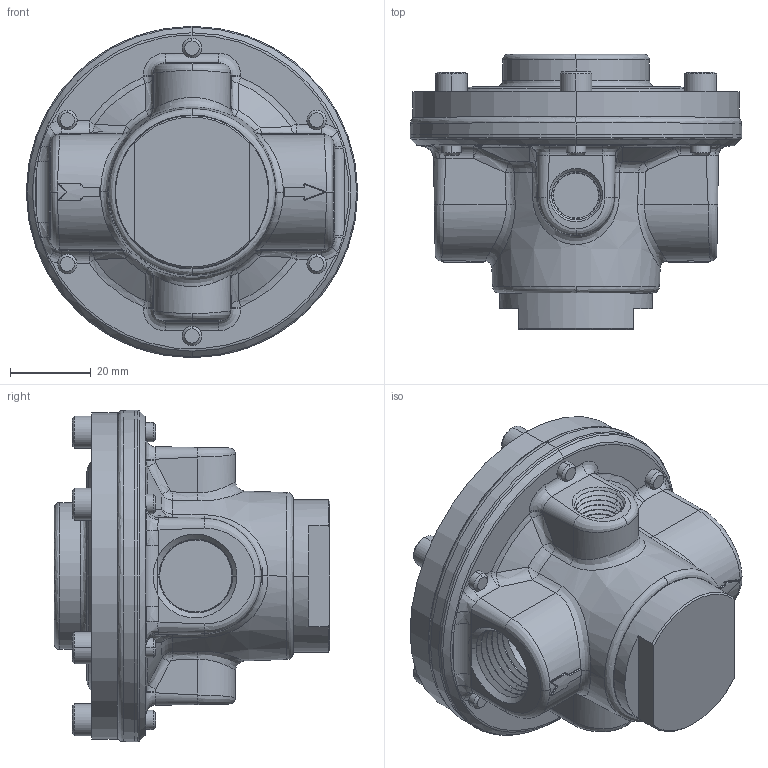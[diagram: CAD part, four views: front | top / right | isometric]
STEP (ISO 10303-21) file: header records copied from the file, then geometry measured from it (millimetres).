
FILE_DESCRIPTION (( 'STEP AP203' ), '1' );
FILE_NAME ('4GDR-4BSPT-PO.STEP', '2013-03-14T15:20:58', ( '' ), ( '' ), 'SwSTEP 2.0', 'SolidWorks 2011', '' );
FILE_SCHEMA (( 'CONFIG_CONTROL_DESIGN' ));
Length unit declared in the file: inch
Products named in the file (2): Part4^4GDR-500B-PO_CM; 4GDR-4BSPT-PO
Assembly tree (1 placements, depth 2):
  4GDR-4BSPT-PO
    Part4^4GDR-500B-PO_CM
Bounding box: 82.3 x 68.38 x 82.3 mm (x, y, z)
Volume: 161331 mm3; surface area: 28913 mm2
Topology: 1 solids, 1 shells, 676 faces, 1633 edges, 966 vertices
Faces by surface type: cone 290, bspline 165, plane 123, cylinder 98
Entity records: 26022 total; most frequent: CARTESIAN_POINT 10911, ORIENTED_EDGE 3242, DIRECTION 3076, EDGE_CURVE 1621, AXIS2_PLACEMENT_3D 1244, VERTEX_POINT 966, CIRCLE 729, EDGE_LOOP 695
